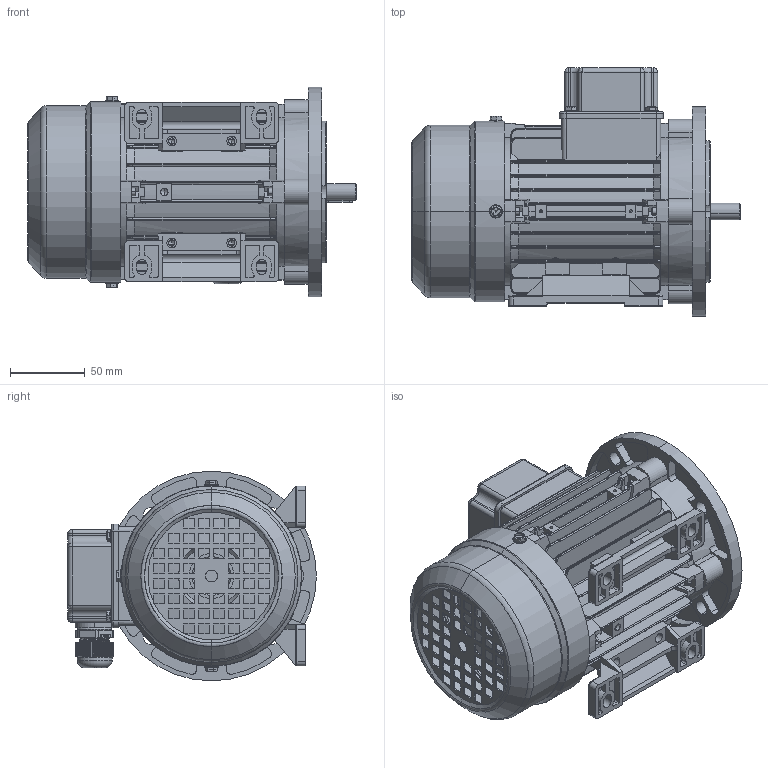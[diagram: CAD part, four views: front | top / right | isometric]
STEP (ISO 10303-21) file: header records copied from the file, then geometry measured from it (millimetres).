
FILE_DESCRIPTION (( 'STEP AP203' ), '1' );
FILE_NAME ('MSL63 assembly B35.STEP', '2017-11-26T09:36:15', ( 'user' ), ( 'china' ), 'SwSTEP 2.0', 'SolidWorks 2016', '' );
FILE_SCHEMA (( 'CONFIG_CONTROL_DESIGN' ));
Length unit declared in the file: millimetre
Products named in the file (14): M63菁褐; GB-T 5780-2000 M5_020; MSL63-71堤盄碟; GB-T 70.1-2000 M5_20; MSL63-71堤盄碟蚾饜; M63傷裔B3_Post; MSL63-儂褲; M63瑞欶; MSL63 assembly B35; M63-Shaft drive end_S; GB-T 29.2-1988 M4鞠褒坋趼湍菜_05; MS63 綴裔瑞欶郪磁; M63傷裔B5; M20 cable gland
Assembly tree (26 placements, depth 3):
  MSL63 assembly B35
    MSL63-儂褲
    MS63 綴裔瑞欶郪磁
      M63傷裔B3_Post
      M63瑞欶
      GB-T 29.2-1988 M4鞠褒坋趼湍菜_05  x3
    MSL63-71堤盄碟蚾饜
      MSL63-71堤盄碟
      GB-T 29.2-1988 M4鞠褒坋趼湍菜_05  x4
      M20 cable gland
    M63菁褐  x2
    M63-Shaft drive end_S
    GB-T 70.1-2000 M5_20  x4
    GB-T 5780-2000 M5_020  x4
    M63傷裔B5
Bounding box: 219 x 166 x 140 mm (x, y, z)
Volume: 438697.7 mm3; surface area: 355965.3 mm2
Topology: 24 solids, 24 shells, 3207 faces, 8376 edges, 5239 vertices
Faces by surface type: plane 1405, cylinder 1223, cone 210, bspline 204, torus 165
Entity records: 104688 total; most frequent: CARTESIAN_POINT 37339, ORIENTED_EDGE 14276, DIRECTION 13217, EDGE_CURVE 7138, AXIS2_PLACEMENT_3D 4785, VERTEX_POINT 4550, VECTOR 3647, LINE 3647
